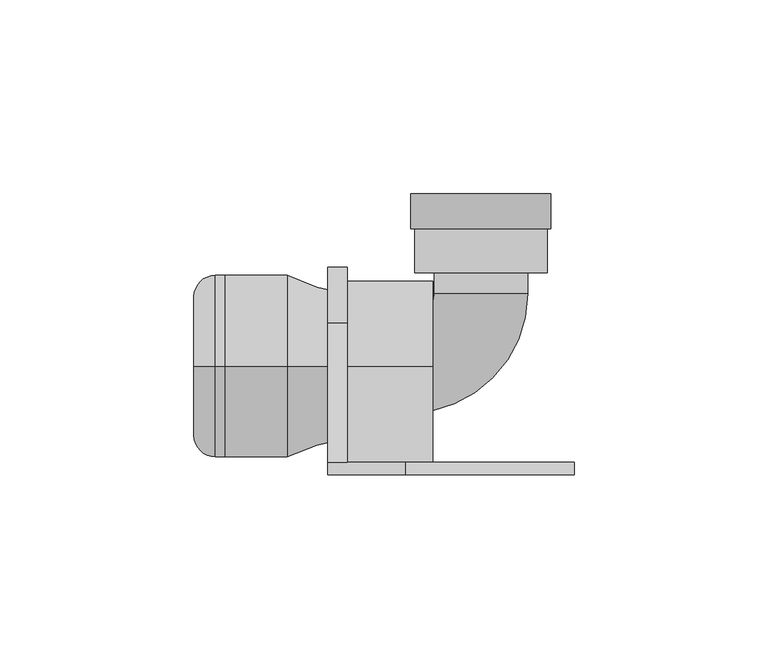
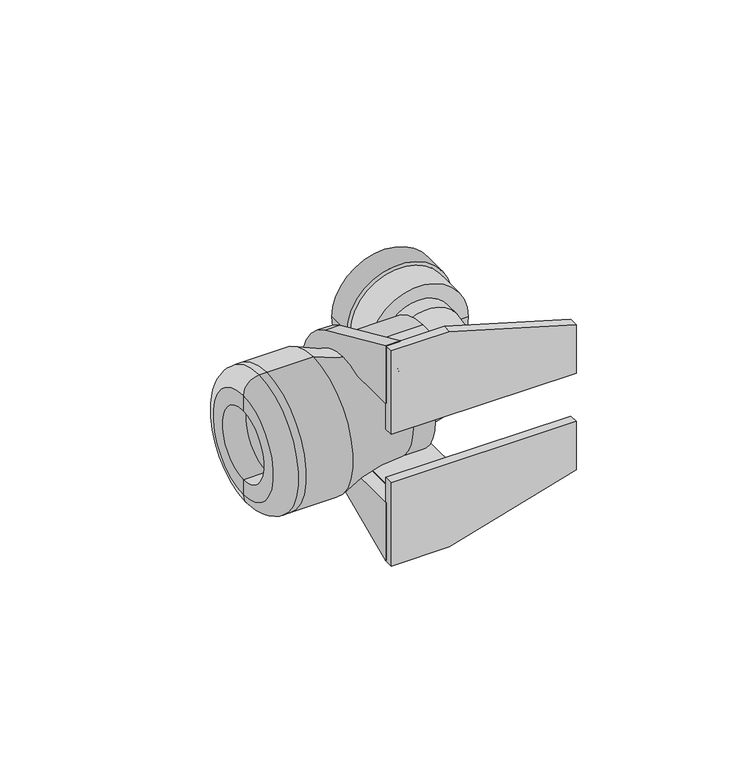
"""IFC4 building model written with IfcOpenShell, lengths in millimetres: pipe fitting geometry, Plumbing_Pipe-Fittings_Plasson_Wall-Plate-Elbow_1075 : Plumbing_Pipe-Fittings_Plasson_Wall-Plate-Elbow_1075."""

import ifcopenshell
import ifcopenshell.guid

model = None  # the IFC model being written
_history = None  # IfcOwnerHistory: only IFC2X3 demands one
_inside = {}  # id of a spatial element -> (the spatial element, [elements in it])
_under = {}  # id of a project, library or spatial element -> (it, [spatial elements below it])
_declared = {}  # id of a project -> (the project, [libraries it declares])
_typed = {}  # id of a type object -> (the type object, [elements of that type])
_made_of = {}  # id of a material, layer set ... -> (it, [elements and type objects made of it])


def new_model(schema):
    """Start an empty IFC model of exactly this schema.

    Asked for "IFC4X3", IfcOpenShell would pick the latest addendum, in which some entities
    have other attributes; the version numbers below select the first issue.
    IFC2X3 requires an IfcOwnerHistory on every rooted entity: one is made here for all.
    """
    global model, _history
    if schema == "IFC4X3":
        model = ifcopenshell.file(schema_version=(4, 3, 0, 0))
    else:
        model = ifcopenshell.file(schema=schema)
    _inside.clear()
    _under.clear()
    _declared.clear()
    _typed.clear()
    _made_of.clear()
    _history = None
    if model.schema == "IFC2X3":
        org = make("IfcOrganization", Name="unknown")
        user = make(
            "IfcPersonAndOrganization",
            ThePerson=make("IfcPerson", FamilyName="unknown"),
            TheOrganization=org,
        )
        app = make(
            "IfcApplication",
            ApplicationDeveloper=org,
            Version="unknown",
            ApplicationFullName="unknown",
            ApplicationIdentifier="unknown",
        )
        _history = make(
            "IfcOwnerHistory",
            OwningUser=user,
            OwningApplication=app,
            ChangeAction="ADDED",
            CreationDate=0,
        )
    return model


def make(cls, **values):
    """One entity of the class cls with the attributes given. An attribute that is None is left unset."""
    return model.create_entity(
        cls, **{name: value for name, value in values.items() if value is not None}
    )


def rooted(cls, **values):
    """An entity with a GlobalId (a new one), such as an element, a storey or a relation."""
    return make(cls, GlobalId=ifcopenshell.guid.new(), OwnerHistory=_history, **values)


def si_unit(unit_type, name, prefix=None):
    """IfcSIUnit, for example si_unit("LENGTHUNIT", "METRE", prefix="MILLI")."""
    return make("IfcSIUnit", UnitType=unit_type, Prefix=prefix, Name=name)


def assignment(units):
    """IfcUnitAssignment: the units of a project."""
    return None if units is None else make("IfcUnitAssignment", Units=units)


def point(xyz):
    """IfcCartesianPoint."""
    return None if xyz is None else make("IfcCartesianPoint", Coordinates=xyz)


def direction(xyz):
    """IfcDirection."""
    return None if xyz is None else make("IfcDirection", DirectionRatios=xyz)


def frame(location, z_axis=None, x_axis=None):
    """IfcAxis2Placement3D, a coordinate frame: its origin and axes. An axis left out is left unset."""
    return make(
        "IfcAxis2Placement3D",
        Location=point(location),
        Axis=direction(z_axis),
        RefDirection=direction(x_axis),
    )


def frame_2d(location, x_axis=None):
    """IfcAxis2Placement2D, a coordinate frame in the plane: its origin and x axis."""
    return make(
        "IfcAxis2Placement2D", Location=point(location), RefDirection=direction(x_axis)
    )


def origin():
    """The frame at (0, 0, 0) with its axes left unset."""
    return frame((0.0, 0.0, 0.0))


def origin_2d():
    """The frame at (0, 0) in the plane with its x axis left unset."""
    return frame_2d((0.0, 0.0))


def place(relative_to, where):
    """IfcLocalPlacement: puts the frame where relative to a parent placement (None: the world)."""
    return make(
        "IfcLocalPlacement", PlacementRelTo=relative_to, RelativePlacement=where
    )


def context(
    kind, dimensions, precision=None, world=None, true_north=None, identifier=None
):
    """IfcGeometricRepresentationContext, for example the 3D "Model" context."""
    return make(
        "IfcGeometricRepresentationContext",
        ContextIdentifier=identifier,
        ContextType=kind,
        CoordinateSpaceDimension=dimensions,
        Precision=precision,
        WorldCoordinateSystem=world,
        TrueNorth=true_north,
    )


def project(units=None, contexts=None):
    """IfcProject with its units and contexts."""
    return rooted(
        "IfcProject",
        Name="project",
        RepresentationContexts=contexts,
        UnitsInContext=assignment(units),
    )


def spatial(cls, under=None, at=None, **own):
    """A site, building, storey or space (cls), placed at a placement, below another one or the project."""
    s = rooted(cls, ObjectPlacement=at, **own)
    if under is not None:
        _under.setdefault(under.id(), (under, []))[1].append(s)
    return s


def polyline(points):
    """IfcPolyline through the points."""
    return make("IfcPolyline", Points=[point(p) for p in points])


def circle_curve(where, radius):
    """IfcCircle in the frame where."""
    return make("IfcCircle", Position=where, Radius=radius)


def ellipse_curve(where, semi_axis1, semi_axis2):
    """IfcEllipse in the frame where."""
    return make(
        "IfcEllipse", Position=where, SemiAxis1=semi_axis1, SemiAxis2=semi_axis2
    )


def trimmed(basis, trim1, trim2, sense, master):
    """IfcTrimmedCurve: the piece of a basis curve between two trims."""
    return make(
        "IfcTrimmedCurve",
        BasisCurve=basis,
        Trim1=trim1,
        Trim2=trim2,
        SenseAgreement=sense,
        MasterRepresentation=master,
    )


def segment(curve, same_sense, transition):
    """IfcCompositeCurveSegment."""
    return make(
        "IfcCompositeCurveSegment",
        Transition=transition,
        SameSense=same_sense,
        ParentCurve=curve,
    )


def composite_curve(segments, self_intersect=None):
    """IfcCompositeCurve: segments joined end to end."""
    return make("IfcCompositeCurve", Segments=segments, SelfIntersect=self_intersect)


def outline(outer, holes=None, kind="AREA"):
    """IfcArbitraryClosedProfileDef: a profile drawn as a closed curve; with holes, ...WithVoids."""
    if holes is None:
        return make("IfcArbitraryClosedProfileDef", ProfileType=kind, OuterCurve=outer)
    return make(
        "IfcArbitraryProfileDefWithVoids",
        ProfileType=kind,
        OuterCurve=outer,
        InnerCurves=holes,
    )


def extrude(swept, where, along, depth):
    """IfcExtrudedAreaSolid: the profile swept, set in the frame where, extruded along a direction by depth."""
    return make(
        "IfcExtrudedAreaSolid",
        SweptArea=swept,
        Position=where,
        ExtrudedDirection=direction(along),
        Depth=depth,
    )


def shape(context_of_items, identifier, shape_type, items):
    """IfcShapeRepresentation: the items that make up one representation, for example the "Body"."""
    return make(
        "IfcShapeRepresentation",
        ContextOfItems=context_of_items,
        RepresentationIdentifier=identifier,
        RepresentationType=shape_type,
        Items=items,
    )


def source(mapping_origin, context_of_items, identifier, shape_type, items):
    """IfcRepresentationMap: a shape defined once, which mapped items show again and again."""
    return make(
        "IfcRepresentationMap",
        MappingOrigin=mapping_origin,
        MappedRepresentation=shape(context_of_items, identifier, shape_type, items),
    )


def transform(
    local_origin,
    x_axis=None,
    y_axis=None,
    z_axis=None,
    scale=None,
    scale2=None,
    scale3=None,
    uniform=True,
):
    """IfcCartesianTransformationOperator3D, or its non-uniform kind. x_axis, y_axis, z_axis: its Axis1, 2, 3."""
    if uniform:
        return make(
            "IfcCartesianTransformationOperator3D",
            Axis1=direction(x_axis),
            Axis2=direction(y_axis),
            LocalOrigin=point(local_origin),
            Scale=scale,
            Axis3=direction(z_axis),
        )
    return make(
        "IfcCartesianTransformationOperator3DnonUniform",
        Axis1=direction(x_axis),
        Axis2=direction(y_axis),
        LocalOrigin=point(local_origin),
        Scale=scale,
        Axis3=direction(z_axis),
        Scale2=scale2,
        Scale3=scale3,
    )


def mapped(mapping_source, mapping_target):
    """IfcMappedItem: shows the shape of a source again, moved by a transform."""
    return make(
        "IfcMappedItem", MappingSource=mapping_source, MappingTarget=mapping_target
    )


def made_of(thing, what):
    """Note that an element or type object is made of a material, layer set ...; save() writes the relation."""
    if what is not None:
        _made_of.setdefault(what.id(), (what, []))[1].append(thing)
    return thing


def element(
    cls,
    number,
    at=None,
    inside=None,
    cuts=None,
    type_object=None,
    material=None,
    context=None,
    identifier="Body",
    shape_type=None,
    held_by="IfcProductDefinitionShape",
    body=None,
    shapes=None,
    **own,
):
    """One element of the class cls, such as IfcWall. Its Tag is "e" and its number.

    at: its placement. inside: the storey or other place that contains it. cuts: it is an
    opening in that element (IfcRelVoidsElement). A single representation is given by context,
    identifier, shape_type and body (its items); several are given by shapes. held_by: the class
    of the entity that holds the representations. save() writes the other relations.
    """
    e = rooted(cls, Tag="e%d" % number, ObjectPlacement=at, **own)
    if body is not None:
        shapes = [shape(context, identifier, shape_type, body)]
    if shapes is not None:
        e.Representation = make(held_by, Representations=shapes)
    if inside is not None:
        _inside.setdefault(inside.id(), (inside, []))[1].append(e)
    if cuts is not None:
        rooted(
            "IfcRelVoidsElement", RelatingBuildingElement=cuts, RelatedOpeningElement=e
        )
    if type_object is not None:
        _typed.setdefault(type_object.id(), (type_object, []))[1].append(e)
    return made_of(e, material)


def aggregate(whole, parts):
    """IfcRelAggregates: a whole, such as a stair, and the parts it consists of."""
    return rooted("IfcRelAggregates", RelatingObject=whole, RelatedObjects=parts)


def save(model, path):
    """Write the relations noted so far, then the file.

    IfcRelAggregates (storeys below a building ...), IfcRelContainedInSpatialStructure (elements
    in a storey), IfcRelDefinesByType, IfcRelAssociatesMaterial and IfcRelDeclares: one each for
    every whole, place, type object, material and project.
    """
    for whole, parts in _under.values():
        aggregate(whole, parts)
    for where, things in _inside.values():
        rooted(
            "IfcRelContainedInSpatialStructure",
            RelatedElements=things,
            RelatingStructure=where,
        )
    for kind, things in _typed.values():
        rooted("IfcRelDefinesByType", RelatedObjects=things, RelatingType=kind)
    for what, things in _made_of.values():
        rooted("IfcRelAssociatesMaterial", RelatedObjects=things, RelatingMaterial=what)
    for by, libraries in _declared.values():
        rooted("IfcRelDeclares", RelatingContext=by, RelatedDefinitions=libraries)
    model.write(path)


def plane_surface(at):
    """IfcPlane: the flat surface through the origin of the frame at, square to its z axis."""
    return make("IfcPlane", Position=at)


def cylinder_surface(at, radius):
    """IfcCylindricalSurface: all points at the distance radius from the z axis of the frame at."""
    return make("IfcCylindricalSurface", Position=at, Radius=radius)


def revolved_surface(curve, axis_point, axis_direction):
    """IfcSurfaceOfRevolution: the curve turned about the line through axis_point along axis_direction."""
    return make(
        "IfcSurfaceOfRevolution",
        SweptCurve=make("IfcArbitraryOpenProfileDef", ProfileType="CURVE", Curve=curve),
        AxisPosition=make("IfcAxis1Placement", Location=point(axis_point), Axis=direction(axis_direction)),
    )


def advanced_brep(points, edges, surfaces, faces):
    """IfcAdvancedBrep: a solid bounded by faces that lie on surfaces and meet in shared edges.

    An edge is (start, end): straight between two places in points (the first is 0);
    or (start, end, curve); or (start, end, curve, False) where it runs against its curve.
    A face is (place in surfaces, loops), or (place, loops, False) where it looks against
    its surface's normal. A loop lists edges by number (the first is 1), with a minus sign
    where the edge is run from its end to its start. The first loop is the outer one.
    """
    corners = [point(p) for p in points]
    vertices = [make("IfcVertexPoint", VertexGeometry=c) for c in corners]
    made = []
    for start, end, *more in edges:
        made.append(
            make(
                "IfcEdgeCurve",
                EdgeStart=vertices[start],
                EdgeEnd=vertices[end],
                EdgeGeometry=more[0] if more else make("IfcPolyline", Points=[corners[start], corners[end]]),
                SameSense=more[1] if len(more) > 1 else True,
            )
        )
    hull = []
    for where, loops, *sense in faces:
        bounds = []
        for j, loop in enumerate(loops):
            ring = [make("IfcOrientedEdge", EdgeElement=made[abs(k) - 1], Orientation=k > 0) for k in loop]
            bounds.append(
                make(
                    "IfcFaceOuterBound" if j == 0 else "IfcFaceBound",
                    Bound=make("IfcEdgeLoop", EdgeList=ring),
                    Orientation=True,
                )
            )
        hull.append(make("IfcAdvancedFace", Bounds=bounds, FaceSurface=surfaces[where], SameSense=sense[0] if sense else True))
    return make("IfcAdvancedBrep", Outer=make("IfcClosedShell", CfsFaces=hull))


def pipe_fitting_3e52993d(model_context):
    return source(origin(), model_context, "Body", "SolidModel", [
        advanced_brep(
        [(0.0, 43.0, -14.05), (0.0, 43.0, 14.05), (0.0, 43.0, 12.05), (0.0, 43.0, -12.05), (0.0, 27.0, -12.05), (0.0, 27.0, 12.05), (0.0, 27.0, 14.05), (0.0, 27.0, -14.05)],
        [
            (0, 1, circle_curve(frame((0.0, 43.0, 0.0), z_axis=(0.0, 1.0, 0.0), x_axis=(0.0, 0.0, 1.0)), 14.05)),
            (1, 2),
            (2, 3, circle_curve(frame((0.0, 43.0, 0.0), z_axis=(0.0, -1.0, 0.0), x_axis=(0.0, 0.0, 1.0)), 12.05)),
            (3, 0),
            (1, 0, circle_curve(frame((0.0, 43.0, 0.0), z_axis=(0.0, 1.0, 0.0), x_axis=(0.0, 0.0, 1.0)), 14.05)),
            (3, 2, circle_curve(frame((0.0, 43.0, 0.0), z_axis=(0.0, -1.0, 0.0), x_axis=(0.0, 0.0, 1.0)), 12.05)),
            (4, 5, circle_curve(frame((0.0, 27.0, 0.0), z_axis=(0.0, 1.0, 0.0), x_axis=(0.0, 0.0, 1.0)), 12.05)),
            (5, 6),
            (6, 7, circle_curve(frame((0.0, 27.0, 0.0), z_axis=(0.0, -1.0, 0.0), x_axis=(0.0, 0.0, 1.0)), 14.05)),
            (7, 4),
            (5, 4, circle_curve(frame((0.0, 27.0, 0.0), z_axis=(0.0, 1.0, 0.0), x_axis=(0.0, 0.0, 1.0)), 12.05)),
            (7, 6, circle_curve(frame((0.0, 27.0, 0.0), z_axis=(0.0, -1.0, 0.0), x_axis=(0.0, 0.0, 1.0)), 14.05)),
            (6, 1),
            (0, 7),
            (2, 5),
            (4, 3),
        ],
        [
            plane_surface(frame((0.0, 43.0, 0.0), z_axis=(0.0, 1.0, 0.0), x_axis=(0.0, 0.0, 1.0))),
            plane_surface(frame((0.0, 27.0, 0.0), z_axis=(0.0, -1.0, 0.0), x_axis=(0.0, 0.0, 1.0))),
            cylinder_surface(frame((0.0, 37.3333333, 0.0), z_axis=(0.0, -1.0, 0.0), x_axis=(0.0, 0.0, 1.0)), 14.05),
            revolved_surface(polyline([(0.0, 27.0, 12.05), (0.0, 43.0, 12.05)]), (0.0, 37.3333333, 0.0), (0.0, -1.0, 0.0)),
        ],
        [
            (0, [[1, 2, 3, 4]]),
            (0, [[5, -4, 6, -2]]),
            (1, [[7, 8, 9, 10]]),
            (1, [[11, -10, 12, -8]]),
            (2, [[-9, 13, -1, 14]]),
            (2, [[-12, -14, -5, -13]]),
            (3, [[-3, 15, -7, 16]]),
            (3, [[-6, -16, -11, -15]]),
        ],
    ),
        advanced_brep(
        [(-13.05, 44.3677295, 0.0), (13.05, 44.3677295, 0.0), (18.05, 44.3677295, 0.0), (-18.05, 44.3677295, 0.0), (-13.05, 35.3677295, 0.0), (13.05, 35.3677295, 0.0), (-18.05, 35.3677295, 0.0), (18.05, 35.3677295, 0.0)],
        [
            (0, 1, circle_curve(frame((0.0, 44.3677295, 0.0), z_axis=(0.0, -1.0, 0.0), x_axis=(1.0, 0.0, 0.0)), 13.05)),
            (1, 2),
            (2, 3, circle_curve(frame((0.0, 44.3677295, 0.0), z_axis=(0.0, 1.0, 0.0), x_axis=(1.0, 0.0, 0.0)), 18.05)),
            (3, 0),
            (1, 0, circle_curve(frame((0.0, 44.3677295, 0.0), z_axis=(0.0, -1.0, 0.0), x_axis=(1.0, 0.0, 0.0)), 13.05)),
            (3, 2, circle_curve(frame((0.0, 44.3677295, 0.0), z_axis=(0.0, 1.0, 0.0), x_axis=(1.0, 0.0, 0.0)), 18.05)),
            (4, 5, circle_curve(frame((0.0, 35.3677295, 0.0), z_axis=(0.0, -1.0, 0.0), x_axis=(1.0, 0.0, 0.0)), 13.05)),
            (5, 1),
            (0, 4),
            (5, 4, circle_curve(frame((0.0, 35.3677295, 0.0), z_axis=(0.0, -1.0, 0.0), x_axis=(1.0, 0.0, 0.0)), 13.05)),
            (6, 7, circle_curve(frame((0.0, 35.3677295, 0.0), z_axis=(0.0, -1.0, 0.0), x_axis=(1.0, 0.0, 0.0)), 18.05)),
            (7, 5),
            (4, 6),
            (7, 6, circle_curve(frame((0.0, 35.3677295, 0.0), z_axis=(0.0, -1.0, 0.0), x_axis=(1.0, 0.0, 0.0)), 18.05)),
            (2, 7),
            (6, 3),
        ],
        [
            plane_surface(frame((0.0, 44.3677295, 0.0), z_axis=(0.0, 1.0, 0.0), x_axis=(1.0, 0.0, 0.0))),
            revolved_surface(polyline([(13.05, 44.3677295, 0.0), (13.05, 35.3677295, 0.0)]), (0.0, 45.022237, 0.0), (0.0, 1.0, 0.0)),
            plane_surface(frame((0.0, 35.3677295, 0.0), z_axis=(0.0, -1.0, 0.0), x_axis=(1.0, 0.0, 0.0))),
            cylinder_surface(frame((0.0, 45.022237, 0.0), z_axis=(0.0, 1.0, 0.0), x_axis=(1.0, 0.0, 0.0)), 18.05),
        ],
        [
            (0, [[1, 2, 3, 4]]),
            (0, [[5, -4, 6, -2]]),
            (1, [[7, 8, -1, 9]]),
            (1, [[10, -9, -5, -8]]),
            (2, [[11, 12, -7, 13]]),
            (2, [[14, -13, -10, -12]]),
            (3, [[-3, 15, -11, 16]]),
            (3, [[-6, -16, -14, -15]]),
        ],
    ),
        extrude(outline(composite_curve([segment(trimmed(circle_curve(origin_2d(), 18.0), [point((0.0, -18.0))], [point((0.0, 18.0))], True, "CARTESIAN"), True, "CONTINUOUS"), segment(polyline([(0.0, 18.0), (-24.8043492, 18.0), (-24.8043492, 22.0), (0.0, 22.0)]), True, "CONTINUOUS"), segment(trimmed(circle_curve(origin_2d(), 22.0), [point((0.0, 22.0))], [point((0.0, -22.0))], False, "CARTESIAN"), True, "CONTINUOUS"), segment(polyline([(0.0, -22.0), (-24.8043492, -22.0), (-24.8043492, -18.0), (0.0, -18.0)]), True, "CONTINUOUS")], self_intersect=False)), frame((-34.4759457, 0.0, 0.0), z_axis=(1.0, 0.0, 0.0), x_axis=(0.0, 1.0, 0.0)), (0.0, 0.0, 1.0), 22.0),
        extrude(outline(composite_curve([segment(polyline([(-24.8043492, 18.0), (-24.8043492, 39.0), (11.0013736, 22.9155687)]), True, "CONTINUOUS"), segment(trimmed(circle_curve(frame_2d((0.386386, 0.0)), 25.2547273), [point((11.0013736, 22.9155687))], [point((11.0013736, -22.9155687))], False, "CARTESIAN"), True, "CONTINUOUS"), segment(polyline([(11.0013736, -22.9155687), (-24.8043492, -39.0), (-24.8043492, -18.0), (0.0, -18.0)]), True, "CONTINUOUS"), segment(trimmed(circle_curve(origin_2d(), 18.0), [point((0.0, -18.0))], [point((0.0, 18.0))], True, "CARTESIAN"), True, "CONTINUOUS"), segment(polyline([(0.0, 18.0), (-24.8043492, 18.0)]), True, "CONTINUOUS")], self_intersect=False)), frame((-39.5, 0.0, 0.0), z_axis=(1.0, 0.0, 0.0), x_axis=(0.0, 1.0, 0.0)), (0.0, 0.0, 1.0), 5.0240543),
        extrude(outline(polyline([(39.0, -19.5), (39.0, -39.5), (8.75, -39.5), (8.75, 24.0), (26.25, 24.0), (39.0, -19.5)])), frame((0.0, -28.0, 0.0), z_axis=(0.0, 1.0, 0.0), x_axis=(0.0, 0.0, 1.0)), (0.0, 0.0, 1.0), 3.1956508),
        extrude(outline(polyline([(-39.0, -39.5), (-39.0, -19.5), (-26.25, 24.0), (-8.75, 24.0), (-8.75, -39.5), (-39.0, -39.5)])), frame((0.0, -28.0, 0.0), z_axis=(0.0, 1.0, 0.0), x_axis=(0.0, 0.0, 1.0)), (0.0, 0.0, 1.0), 3.1956508),
        advanced_brep(
        [(-18.6, -12.05, 0.0), (-18.6, 12.05, 0.0), (12.05, 18.6, 0.0), (-12.05, 18.6, 0.0)],
        [
            (0, 1, circle_curve(frame((-18.6, 0.0, 0.0), z_axis=(-1.0, 0.0, 0.0), x_axis=(0.0, 1.0, 0.0)), 12.05)),
            (1, 0, circle_curve(frame((-18.6, 0.0, 0.0), z_axis=(-1.0, 0.0, 0.0), x_axis=(0.0, 1.0, 0.0)), 12.05)),
            (2, 3, circle_curve(frame((0.0, 18.6, 0.0), z_axis=(0.0, 1.0, 0.0), x_axis=(-1.0, 0.0, 0.0)), 12.05)),
            (3, 2, circle_curve(frame((0.0, 18.6, 0.0), z_axis=(0.0, 1.0, 0.0), x_axis=(-1.0, 0.0, 0.0)), 12.05)),
            (3, 1, circle_curve(frame((-18.6, 18.6, 0.0), z_axis=(0.0, 0.0, -1.0), x_axis=(0.0, -1.0, 0.0)), 6.55)),
            (0, 2, circle_curve(frame((-18.6, 18.6, 0.0), z_axis=(0.0, 0.0, 1.0), x_axis=(0.0, -1.0, 0.0)), 30.65)),
        ],
        [
            plane_surface(frame((-18.6, 0.0, 0.0), z_axis=(-1.0, 0.0, 0.0), x_axis=(0.0, 0.0, 1.0))),
            plane_surface(frame((0.0, 18.6, 0.0), z_axis=(0.0, 1.0, 0.0), x_axis=(0.0, 0.0, 1.0))),
            revolved_surface(trimmed(ellipse_curve(frame((-18.6, 0.0, 0.0), z_axis=(-1.0, 0.0, 0.0), x_axis=(0.0, 1.0, 0.0)), 12.05, 12.05), [point((-18.6, -12.05, 0.0))], [point((-18.6, 12.05, 0.0))], True, "CARTESIAN"), (-18.6, 18.6, 0.0), (0.0, 0.0, 1.0)),
            revolved_surface(trimmed(ellipse_curve(frame((-18.6, 0.0, 0.0), z_axis=(-1.0, 0.0, 0.0), x_axis=(0.0, 1.0, 0.0)), 12.05, 12.05), [point((-18.6, 12.05, 0.0))], [point((-18.6, -12.05, 0.0))], True, "CARTESIAN"), (-18.6, 18.6, 0.0), (0.0, 0.0, 1.0)),
        ],
        [
            (0, [[1, 2]]),
            (1, [[3, 4]]),
            (2, [[5, -1, 6, -4]]),
            (3, [[-6, -2, -5, -3]]),
        ],
    ),
        advanced_brep(
        [(17.05, 24.0, 0.0), (-17.05, 24.0, 0.0), (-17.05, 43.0, 0.0), (17.05, 43.0, 0.0), (14.05, 27.0, 0.0), (-14.05, 27.0, 0.0), (0.0, 27.0, 0.0), (0.0, 18.6, 0.0), (-12.05, 18.6, 0.0), (12.05, 18.6, 0.0), (-12.05, 24.0, 0.0), (12.05, 24.0, 0.0), (14.05, 43.0, 0.0), (-14.05, 43.0, 0.0)],
        [
            (0, 1, circle_curve(frame((0.0, 24.0, 0.0), z_axis=(0.0, 1.0, 0.0), x_axis=(-1.0, 0.0, 0.0)), 17.05)),
            (1, 2),
            (2, 3, circle_curve(frame((0.0, 43.0, 0.0), z_axis=(0.0, -1.0, 0.0), x_axis=(-1.0, 0.0, 0.0)), 17.05)),
            (3, 0),
            (1, 0, circle_curve(frame((0.0, 24.0, 0.0), z_axis=(0.0, 1.0, 0.0), x_axis=(-1.0, 0.0, 0.0)), 17.05)),
            (3, 2, circle_curve(frame((0.0, 43.0, 0.0), z_axis=(0.0, -1.0, 0.0), x_axis=(-1.0, 0.0, 0.0)), 17.05)),
            (4, 5, circle_curve(frame((0.0, 27.0, 0.0), z_axis=(0.0, 1.0, 0.0), x_axis=(-1.0, 0.0, 0.0)), 14.05)),
            (5, 6),
            (6, 4),
            (5, 4, circle_curve(frame((0.0, 27.0, 0.0), z_axis=(0.0, 1.0, 0.0), x_axis=(-1.0, 0.0, 0.0)), 14.05)),
            (7, 8),
            (8, 9, circle_curve(frame((0.0, 18.6, 0.0), z_axis=(0.0, -1.0, 0.0), x_axis=(-1.0, 0.0, 0.0)), 12.05)),
            (9, 7),
            (9, 8, circle_curve(frame((0.0, 18.6, 0.0), z_axis=(0.0, -1.0, 0.0), x_axis=(-1.0, 0.0, 0.0)), 12.05)),
            (8, 10),
            (10, 11, circle_curve(frame((0.0, 24.0, 0.0), z_axis=(0.0, -1.0, 0.0), x_axis=(-1.0, 0.0, 0.0)), 12.05)),
            (11, 9),
            (11, 10, circle_curve(frame((0.0, 24.0, 0.0), z_axis=(0.0, -1.0, 0.0), x_axis=(-1.0, 0.0, 0.0)), 12.05)),
            (10, 1),
            (0, 11),
            (12, 13, circle_curve(frame((0.0, 43.0, 0.0), z_axis=(0.0, 1.0, 0.0), x_axis=(-1.0, 0.0, 0.0)), 14.05)),
            (13, 5),
            (4, 12),
            (13, 12, circle_curve(frame((0.0, 43.0, 0.0), z_axis=(0.0, 1.0, 0.0), x_axis=(-1.0, 0.0, 0.0)), 14.05)),
            (2, 13),
            (12, 3),
        ],
        [
            cylinder_surface(frame((0.0, 35.25, 0.0), z_axis=(0.0, -1.0, 0.0), x_axis=(-1.0, 0.0, 0.0)), 17.05),
            plane_surface(frame((0.0, 27.0, 0.0), z_axis=(0.0, 1.0, 0.0), x_axis=(-1.0, 0.0, 0.0))),
            plane_surface(frame((0.0, 18.6, 0.0), z_axis=(0.0, -1.0, 0.0), x_axis=(-1.0, 0.0, 0.0))),
            cylinder_surface(frame((0.0, 35.25, 0.0), z_axis=(0.0, -1.0, 0.0), x_axis=(-1.0, 0.0, 0.0)), 12.05),
            plane_surface(frame((0.0, 24.0, 0.0), z_axis=(0.0, -1.0, 0.0), x_axis=(-1.0, 0.0, 0.0))),
            revolved_surface(polyline([(-14.05, 27.0, 0.0), (-14.05, 43.0, 0.0)]), (0.0, 35.25, 0.0), (0.0, -1.0, 0.0)),
            plane_surface(frame((0.0, 43.0, 0.0), z_axis=(0.0, 1.0, 0.0), x_axis=(-1.0, 0.0, 0.0))),
        ],
        [
            (0, [[1, 2, 3, 4]]),
            (0, [[5, -4, 6, -2]]),
            (1, [[7, 8, 9]]),
            (1, [[10, -9, -8]]),
            (2, [[11, 12, 13]]),
            (2, [[-13, 14, -11]]),
            (3, [[-12, 15, 16, 17]]),
            (3, [[-14, -17, 18, -15]]),
            (4, [[-16, 19, -1, 20]]),
            (4, [[-18, -20, -5, -19]]),
            (5, [[21, 22, -7, 23]]),
            (5, [[24, -23, -10, -22]]),
            (6, [[-3, 25, -21, 26]]),
            (6, [[-6, -26, -24, -25]]),
        ],
    ),
        advanced_brep(
        [(-66.0, 0.0, -23.5), (-66.0, 0.0, 23.5), (-66.0, 0.0, 12.5), (-66.0, 0.0, -12.5), (-68.5, 0.0, -23.5), (-68.5, 0.0, 23.5), (-74.0, 0.0, -18.0), (-74.0, 0.0, 18.0), (-74.0, 0.0, -12.5), (-74.0, 0.0, 12.5)],
        [
            (0, 1, circle_curve(frame((-66.0, 0.0, 0.0), z_axis=(1.0, 0.0, 0.0), x_axis=(0.0, 0.0, 1.0)), 23.5)),
            (1, 2),
            (2, 3, circle_curve(frame((-66.0, 0.0, 0.0), z_axis=(-1.0, 0.0, 0.0), x_axis=(0.0, 0.0, 1.0)), 12.5)),
            (3, 0),
            (1, 0, circle_curve(frame((-66.0, 0.0, 0.0), z_axis=(1.0, 0.0, 0.0), x_axis=(0.0, 0.0, 1.0)), 23.5)),
            (3, 2, circle_curve(frame((-66.0, 0.0, 0.0), z_axis=(-1.0, 0.0, 0.0), x_axis=(0.0, 0.0, 1.0)), 12.5)),
            (4, 5, circle_curve(frame((-68.5, 0.0, 0.0), z_axis=(1.0, 0.0, 0.0), x_axis=(0.0, 0.0, 1.0)), 23.5)),
            (5, 1),
            (0, 4),
            (5, 4, circle_curve(frame((-68.5, 0.0, 0.0), z_axis=(1.0, 0.0, 0.0), x_axis=(0.0, 0.0, 1.0)), 23.5)),
            (6, 7, circle_curve(frame((-74.0, 0.0, 0.0), z_axis=(1.0, 0.0, 0.0), x_axis=(0.0, 0.0, 1.0)), 18.0)),
            (7, 5, circle_curve(frame((-68.5, 0.0, 18.0), z_axis=(0.0, 1.0, 0.0), x_axis=(1.0, 0.0, 0.0)), 5.5)),
            (4, 6, circle_curve(frame((-68.5, 0.0, -18.0), z_axis=(0.0, 1.0, 0.0), x_axis=(1.0, 0.0, 0.0)), 5.5)),
            (7, 6, circle_curve(frame((-74.0, 0.0, 0.0), z_axis=(1.0, 0.0, 0.0), x_axis=(0.0, 0.0, 1.0)), 18.0)),
            (8, 9, circle_curve(frame((-74.0, 0.0, 0.0), z_axis=(1.0, 0.0, 0.0), x_axis=(0.0, 0.0, 1.0)), 12.5)),
            (9, 7),
            (6, 8),
            (9, 8, circle_curve(frame((-74.0, 0.0, 0.0), z_axis=(1.0, 0.0, 0.0), x_axis=(0.0, 0.0, 1.0)), 12.5)),
            (2, 9),
            (8, 3),
        ],
        [
            plane_surface(frame((-66.0, 0.0, 0.0), z_axis=(1.0, 0.0, 0.0), x_axis=(0.0, 0.0, 1.0))),
            cylinder_surface(frame((-79.0, 0.0, 0.0), z_axis=(-1.0, 0.0, 0.0), x_axis=(0.0, 0.0, 1.0)), 23.5),
            revolved_surface(trimmed(ellipse_curve(frame((-68.5, 0.0, 18.0), z_axis=(0.0, -1.0, 0.0), x_axis=(1.0, 0.0, 0.0)), 5.5, 5.5), [point((-68.5, 0.0, 23.5))], [point((-74.0, 0.0, 18.0))], True, "CARTESIAN"), (-79.0, 0.0, 0.0), (-1.0, 0.0, 0.0)),
            plane_surface(frame((-74.0, 0.0, 0.0), z_axis=(-1.0, 0.0, 0.0), x_axis=(0.0, 0.0, 1.0))),
            revolved_surface(polyline([(-74.0, 0.0, 12.5), (-66.0, 0.0, 12.5)]), (-79.0, 0.0, 0.0), (-1.0, 0.0, 0.0)),
        ],
        [
            (0, [[1, 2, 3, 4]]),
            (0, [[5, -4, 6, -2]]),
            (1, [[7, 8, -1, 9]]),
            (1, [[10, -9, -5, -8]]),
            (2, [[11, 12, -7, 13]]),
            (2, [[14, -13, -10, -12]]),
            (3, [[15, 16, -11, 17]]),
            (3, [[18, -17, -14, -16]]),
            (4, [[-3, 19, -15, 20]]),
            (4, [[-6, -20, -18, -19]]),
        ],
    ),
        advanced_brep(
        [(-66.0, 0.0, -12.5), (-66.0, 0.0, 12.5), (-66.0, 0.0, 23.5), (-66.0, 0.0, -23.5), (-26.0, 0.0, -12.5), (-26.0, 0.0, 12.5), (-26.0, 0.0, 0.0), (-50.0, 0.0, 23.5), (-50.0, 0.0, -23.5), (-18.6, 0.0, -18.0), (-18.6, 0.0, 18.0), (-18.6, 0.0, 0.0), (-26.0, 0.0, -18.0), (-26.0, 0.0, 18.0)],
        [
            (0, 1, circle_curve(frame((-66.0, 0.0, 0.0), z_axis=(1.0, 0.0, 0.0), x_axis=(0.0, 0.0, 1.0)), 12.5)),
            (1, 2),
            (2, 3, circle_curve(frame((-66.0, 0.0, 0.0), z_axis=(-1.0, 0.0, 0.0), x_axis=(0.0, 0.0, 1.0)), 23.5)),
            (3, 0),
            (1, 0, circle_curve(frame((-66.0, 0.0, 0.0), z_axis=(1.0, 0.0, 0.0), x_axis=(0.0, 0.0, 1.0)), 12.5)),
            (3, 2, circle_curve(frame((-66.0, 0.0, 0.0), z_axis=(-1.0, 0.0, 0.0), x_axis=(0.0, 0.0, 1.0)), 23.5)),
            (4, 5, circle_curve(frame((-26.0, 0.0, 0.0), z_axis=(1.0, 0.0, 0.0), x_axis=(0.0, 0.0, 1.0)), 12.5)),
            (5, 1),
            (0, 4),
            (5, 4, circle_curve(frame((-26.0, 0.0, 0.0), z_axis=(1.0, 0.0, 0.0), x_axis=(0.0, 0.0, 1.0)), 12.5)),
            (6, 5),
            (4, 6),
            (2, 7),
            (7, 8, circle_curve(frame((-50.0, 0.0, 0.0), z_axis=(-1.0, 0.0, 0.0), x_axis=(0.0, 0.0, 1.0)), 23.5)),
            (8, 3),
            (8, 7, circle_curve(frame((-50.0, 0.0, 0.0), z_axis=(-1.0, 0.0, 0.0), x_axis=(0.0, 0.0, 1.0)), 23.5)),
            (9, 10, circle_curve(frame((-18.6, 0.0, 0.0), z_axis=(1.0, 0.0, 0.0), x_axis=(0.0, 0.0, 1.0)), 18.0)),
            (10, 11),
            (11, 9),
            (10, 9, circle_curve(frame((-18.6, 0.0, 0.0), z_axis=(1.0, 0.0, 0.0), x_axis=(0.0, 0.0, 1.0)), 18.0)),
            (12, 13, circle_curve(frame((-26.0, 0.0, 0.0), z_axis=(1.0, 0.0, 0.0), x_axis=(0.0, 0.0, 1.0)), 18.0)),
            (13, 10),
            (9, 12),
            (13, 12, circle_curve(frame((-26.0, 0.0, 0.0), z_axis=(1.0, 0.0, 0.0), x_axis=(0.0, 0.0, 1.0)), 18.0)),
            (7, 13, circle_curve(frame((-26.0, 0.0, 73.1136364), z_axis=(0.0, -1.0, 0.0), x_axis=(1.0, 0.0, 0.0)), 55.1136364)),
            (12, 8, circle_curve(frame((-26.0, 0.0, -73.1136364), z_axis=(0.0, -1.0, 0.0), x_axis=(1.0, 0.0, 0.0)), 55.1136364)),
        ],
        [
            plane_surface(frame((-66.0, 0.0, 0.0), z_axis=(-1.0, 0.0, 0.0), x_axis=(0.0, 0.0, 1.0))),
            revolved_surface(polyline([(-66.0, 0.0, 12.5), (-26.0, 0.0, 12.5)]), (-66.0, 0.0, 0.0), (-1.0, 0.0, 0.0)),
            plane_surface(frame((-26.0, 0.0, 0.0), z_axis=(-1.0, 0.0, 0.0), x_axis=(0.0, 0.0, 1.0))),
            cylinder_surface(frame((-66.0, 0.0, 0.0), z_axis=(-1.0, 0.0, 0.0), x_axis=(0.0, 0.0, 1.0)), 23.5),
            plane_surface(frame((-18.6, 0.0, 0.0), z_axis=(1.0, 0.0, 0.0), x_axis=(0.0, 0.0, 1.0))),
            cylinder_surface(frame((-66.0, 0.0, 0.0), z_axis=(-1.0, 0.0, 0.0), x_axis=(0.0, 0.0, 1.0)), 18.0),
            revolved_surface(trimmed(ellipse_curve(frame((-26.0, 0.0, 73.1136364), z_axis=(0.0, 1.0, 0.0), x_axis=(1.0, 0.0, 0.0)), 55.1136364, 55.1136364), [point((-26.0, 0.0, 18.0))], [point((-50.0, 0.0, 23.5))], True, "CARTESIAN"), (-66.0, 0.0, 0.0), (-1.0, 0.0, 0.0)),
        ],
        [
            (0, [[1, 2, 3, 4]]),
            (0, [[5, -4, 6, -2]]),
            (1, [[7, 8, -1, 9]]),
            (1, [[10, -9, -5, -8]]),
            (2, [[11, -7, 12]]),
            (2, [[-12, -10, -11]]),
            (3, [[-3, 13, 14, 15]]),
            (3, [[-6, -15, 16, -13]]),
            (4, [[17, 18, 19]]),
            (4, [[20, -19, -18]]),
            (5, [[21, 22, -17, 23]]),
            (5, [[24, -23, -20, -22]]),
            (6, [[-14, 25, -21, 26]]),
            (6, [[-16, -26, -24, -25]]),
        ],
    ),
    ])


if __name__ == "__main__":
    model = new_model("IFC4")
    model_context = context("Model", 3, world=origin())
    ifc_project = project(units=[si_unit("LENGTHUNIT", "METRE", prefix="MILLI")], contexts=[model_context])
    site = spatial("IfcSite", under=ifc_project)
    building = spatial("IfcBuilding", under=site)
    placement = place(None, origin())
    pipe_fitting_shape = pipe_fitting_3e52993d(model_context)
    element("IfcPipeFitting", 1, ObjectType="Plumbing_Pipe-Fittings_Plasson_Wall-Plate-Elbow_1075 : Plumbing_Pipe-Fittings_Plasson_Wall-Plate-Elbow_1075", at=placement, inside=building, context=model_context, shape_type="MappedRepresentation", body=[
        mapped(pipe_fitting_shape, transform((0.0, 0.0, 0.0), x_axis=(1.0, 0.0, 0.0), y_axis=(0.0, 1.0, 0.0), z_axis=(0.0, 0.0, 1.0))),
    ])
    save(model, "model.ifc")
